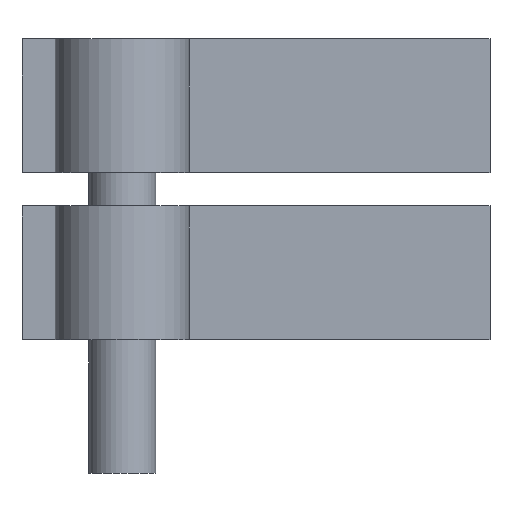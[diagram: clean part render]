
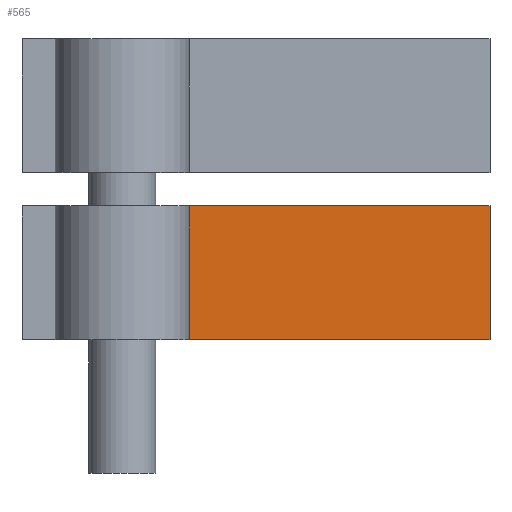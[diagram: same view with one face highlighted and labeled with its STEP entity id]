
A CAD part, top view. The second image highlights one B-rep face of the part: STEP entity #565.
In plain terms, the highlighted planar face has unit normal (0, 0, 1).
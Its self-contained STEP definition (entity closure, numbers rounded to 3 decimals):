
#70 = PLANE('',#71);
#71 = AXIS2_PLACEMENT_3D('',#72,#73,#74);
#72 = CARTESIAN_POINT('',(0.,-4.,0.));
#73 = DIRECTION('',(0.,1.,0.));
#74 = DIRECTION('',(0.,0.,1.));
#126 = PLANE('',#127);
#127 = AXIS2_PLACEMENT_3D('',#128,#129,#130);
#128 = CARTESIAN_POINT('',(0.,4.,0.));
#129 = DIRECTION('',(0.,1.,0.));
#130 = DIRECTION('',(0.,0.,1.));
#170 = VERTEX_POINT('',#171);
#171 = CARTESIAN_POINT('',(28.,-4.,4.));
#185 = PLANE('',#186);
#186 = AXIS2_PLACEMENT_3D('',#187,#188,#189);
#187 = CARTESIAN_POINT('',(28.,-4.,0.));
#188 = DIRECTION('',(1.,0.,0.));
#189 = DIRECTION('',(0.,0.,1.));
#243 = VERTEX_POINT('',#244);
#244 = CARTESIAN_POINT('',(9.464,-4.,4.));
#263 = CYLINDRICAL_SURFACE('',#264,4.);
#264 = AXIS2_PLACEMENT_3D('',#265,#266,#267);
#265 = CARTESIAN_POINT('',(6.,0.,6.));
#266 = DIRECTION('',(0.,-1.,0.));
#267 = DIRECTION('',(1.,0.,0.));
#275 = EDGE_CURVE('',#243,#170,#276,.T.);
#276 = SURFACE_CURVE('',#277,(#281,#288),.PCURVE_S1.);
#277 = LINE('',#278,#279);
#278 = CARTESIAN_POINT('',(0.,-4.,4.));
#279 = VECTOR('',#280,1.);
#280 = DIRECTION('',(1.,0.,0.));
#281 = PCURVE('',#70,#282);
#282 = DEFINITIONAL_REPRESENTATION('',(#283),#287);
#283 = LINE('',#284,#285);
#284 = CARTESIAN_POINT('',(4.,0.));
#285 = VECTOR('',#286,1.);
#286 = DIRECTION('',(0.,1.));
#287 = ( GEOMETRIC_REPRESENTATION_CONTEXT(2) 
PARAMETRIC_REPRESENTATION_CONTEXT() REPRESENTATION_CONTEXT('2D SPACE',''
  ) );
#288 = PCURVE('',#289,#294);
#289 = PLANE('',#290);
#290 = AXIS2_PLACEMENT_3D('',#291,#292,#293);
#291 = CARTESIAN_POINT('',(0.,-4.,4.));
#292 = DIRECTION('',(0.,0.,1.));
#293 = DIRECTION('',(1.,0.,0.));
#294 = DEFINITIONAL_REPRESENTATION('',(#295),#299);
#295 = LINE('',#296,#297);
#296 = CARTESIAN_POINT('',(0.,0.));
#297 = VECTOR('',#298,1.);
#298 = DIRECTION('',(1.,0.));
#299 = ( GEOMETRIC_REPRESENTATION_CONTEXT(2) 
PARAMETRIC_REPRESENTATION_CONTEXT() REPRESENTATION_CONTEXT('2D SPACE',''
  ) );
#387 = VERTEX_POINT('',#388);
#388 = CARTESIAN_POINT('',(28.,4.,4.));
#433 = VERTEX_POINT('',#434);
#434 = CARTESIAN_POINT('',(9.464,4.,4.));
#456 = EDGE_CURVE('',#433,#387,#457,.T.);
#457 = SURFACE_CURVE('',#458,(#462,#469),.PCURVE_S1.);
#458 = LINE('',#459,#460);
#459 = CARTESIAN_POINT('',(0.,4.,4.));
#460 = VECTOR('',#461,1.);
#461 = DIRECTION('',(1.,0.,0.));
#462 = PCURVE('',#126,#463);
#463 = DEFINITIONAL_REPRESENTATION('',(#464),#468);
#464 = LINE('',#465,#466);
#465 = CARTESIAN_POINT('',(4.,0.));
#466 = VECTOR('',#467,1.);
#467 = DIRECTION('',(0.,1.));
#468 = ( GEOMETRIC_REPRESENTATION_CONTEXT(2) 
PARAMETRIC_REPRESENTATION_CONTEXT() REPRESENTATION_CONTEXT('2D SPACE',''
  ) );
#469 = PCURVE('',#289,#470);
#470 = DEFINITIONAL_REPRESENTATION('',(#471),#475);
#471 = LINE('',#472,#473);
#472 = CARTESIAN_POINT('',(0.,8.));
#473 = VECTOR('',#474,1.);
#474 = DIRECTION('',(1.,0.));
#475 = ( GEOMETRIC_REPRESENTATION_CONTEXT(2) 
PARAMETRIC_REPRESENTATION_CONTEXT() REPRESENTATION_CONTEXT('2D SPACE',''
  ) );
#545 = EDGE_CURVE('',#170,#387,#546,.T.);
#546 = SURFACE_CURVE('',#547,(#551,#558),.PCURVE_S1.);
#547 = LINE('',#548,#549);
#548 = CARTESIAN_POINT('',(28.,-4.,4.));
#549 = VECTOR('',#550,1.);
#550 = DIRECTION('',(0.,1.,0.));
#551 = PCURVE('',#185,#552);
#552 = DEFINITIONAL_REPRESENTATION('',(#553),#557);
#553 = LINE('',#554,#555);
#554 = CARTESIAN_POINT('',(4.,0.));
#555 = VECTOR('',#556,1.);
#556 = DIRECTION('',(0.,-1.));
#557 = ( GEOMETRIC_REPRESENTATION_CONTEXT(2) 
PARAMETRIC_REPRESENTATION_CONTEXT() REPRESENTATION_CONTEXT('2D SPACE',''
  ) );
#558 = PCURVE('',#289,#559);
#559 = DEFINITIONAL_REPRESENTATION('',(#560),#564);
#560 = LINE('',#561,#562);
#561 = CARTESIAN_POINT('',(28.,0.));
#562 = VECTOR('',#563,1.);
#563 = DIRECTION('',(0.,1.));
#564 = ( GEOMETRIC_REPRESENTATION_CONTEXT(2) 
PARAMETRIC_REPRESENTATION_CONTEXT() REPRESENTATION_CONTEXT('2D SPACE',''
  ) );
#565 = ADVANCED_FACE('',(#566),#289,.T.);
#566 = FACE_BOUND('',#567,.T.);
#567 = EDGE_LOOP('',(#568,#569,#590,#591));
#568 = ORIENTED_EDGE('',*,*,#456,.F.);
#569 = ORIENTED_EDGE('',*,*,#570,.T.);
#570 = EDGE_CURVE('',#433,#243,#571,.T.);
#571 = SURFACE_CURVE('',#572,(#576,#583),.PCURVE_S1.);
#572 = LINE('',#573,#574);
#573 = CARTESIAN_POINT('',(9.464,4.,4.));
#574 = VECTOR('',#575,1.);
#575 = DIRECTION('',(0.,-1.,0.));
#576 = PCURVE('',#289,#577);
#577 = DEFINITIONAL_REPRESENTATION('',(#578),#582);
#578 = LINE('',#579,#580);
#579 = CARTESIAN_POINT('',(9.464,8.));
#580 = VECTOR('',#581,1.);
#581 = DIRECTION('',(0.,-1.));
#582 = ( GEOMETRIC_REPRESENTATION_CONTEXT(2) 
PARAMETRIC_REPRESENTATION_CONTEXT() REPRESENTATION_CONTEXT('2D SPACE',''
  ) );
#583 = PCURVE('',#263,#584);
#584 = DEFINITIONAL_REPRESENTATION('',(#585),#589);
#585 = LINE('',#586,#587);
#586 = CARTESIAN_POINT('',(5.76,-4.));
#587 = VECTOR('',#588,1.);
#588 = DIRECTION('',(0.,1.));
#589 = ( GEOMETRIC_REPRESENTATION_CONTEXT(2) 
PARAMETRIC_REPRESENTATION_CONTEXT() REPRESENTATION_CONTEXT('2D SPACE',''
  ) );
#590 = ORIENTED_EDGE('',*,*,#275,.T.);
#591 = ORIENTED_EDGE('',*,*,#545,.T.);
